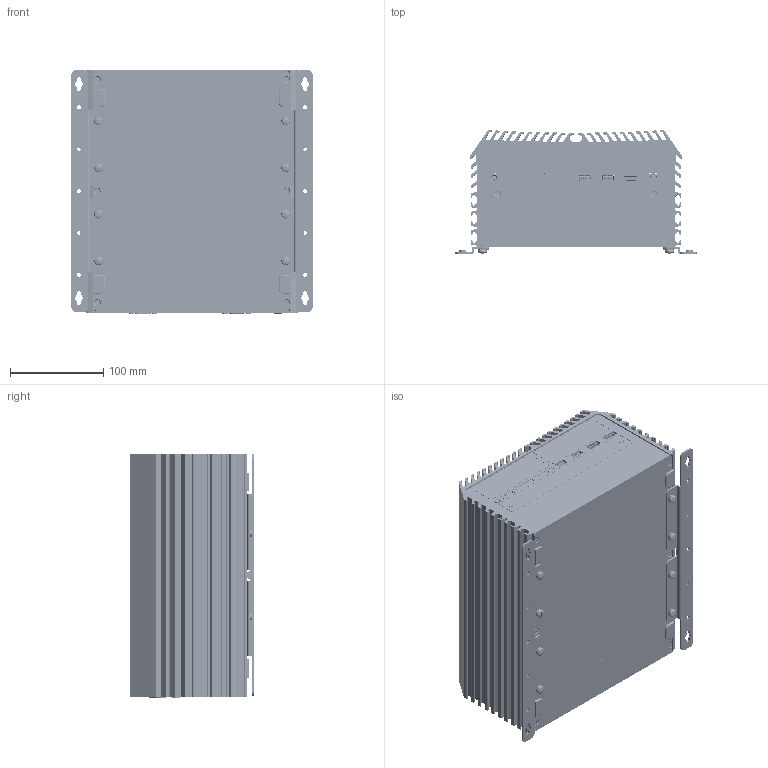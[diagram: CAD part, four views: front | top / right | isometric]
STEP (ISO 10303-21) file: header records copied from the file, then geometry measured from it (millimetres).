
FILE_DESCRIPTION (( 'STEP AP214' ), '1' );
FILE_NAME ('DS-1402-¼Ð·Ç-¥~Æ[-20230914.STEP', '2023-09-14T09:44:13', ( 'Owner' ), ( '' ), 'SwSTEP 2.0', 'SolidWorks 2014', '' );
FILE_SCHEMA (( 'AUTOMOTIVE_DESIGN' ));
Length unit declared in the file: millimetre
Products named in the file (37): Screw-丸頭-十字-耐落-SW-M5x6(M3-SCREAB00001); DS-1402-標準-外觀-20230914; DS-Wall Mount Bracket(M1-ZZZZ3611004); DS-1300-Front Bezel-symbol_panel(M0-ZZZZ5C30009)-20200923; Hole Plugs(M4-RUBR0100004)-M06V0; DS-1302-Front Bezel(M1-407130224100)-20200311; Screw-丸頭-十字-外齒-M5x8(M3-SCREAB00002); Screw-沙拉-120-星型-T10+E型扣-黑-M3x13(M3-1103132270+M3-402004050415); DS-1400-PCBA-ASM-20230419; Screw-耐落-沙拉-90-星型-T10-黑-M3x8(M3-N103082260); DS-1400-Main Board asm-20221108; RUM2JA-KFJC-BCB-0R; DS-1200-Bottom Cover asm-20200406; WHDM-19FLBSDR; Rubber Foot Shore(M4-RUFT0100001); USB-3.0-SMT-T.H(122-0921NX0504); DS-1200-Bottom Cover(M1-407120011200)-20180821; PWR_BTN_TC003; 23-D0341500030_DC_IN1_5EHDRM-03P_8; DS-1202-Top Cover asm-金金-20180402; 23-D0341500040_FAN2_ECH350R_3P_1LAYER; Top Cover(M1-407120206300)-DS-1202-金金-20181015; DS-1302-Riser Card Bracket asm-20200311; 23-D0242300200_DP1_DISPLAYPORT; L-Bracket(M0-LBKT2300017); D330H1SL72211DD0; DS-MEC KIT-Universal Bracket(M1-ZZZZ3613001); DS-1302-Riser Card Bracket(M1-107130253400)-20210204; 23-D0351500040_CN2_MINIDIN_USBX2; DS-1102-Riser Card Bracket-A(M1-107110253400); D20H1P1PA1X2A111N2 (3D); DS-1302-Rear Bezel(M1-407130234100)-20200419; AUTIO_2IN1; 銅柱-4-4OUNC-4.8_11.8H(M3-COSD6L00000)東莞?輝; 23-D0351500040_CN1_ECHB350R-04P; DS-1200-Front Bezel Matching Bezel(M1-407120084100); DS-1300-Front Open Bezel(M1-407130084101)
Assembly tree (66 placements, depth 4):
  DS-1402-標準-外觀-20230914
    DS-1400-PCBA-ASM-20230419
      DS-1400-Main Board asm-20221108
        23-D0351500040_CN1_ECHB350R-04P
        AUTIO_2IN1
        D20H1P1PA1X2A111N2 (3D)
        23-D0351500040_CN2_MINIDIN_USBX2
        D330H1SL72211DD0
        23-D0242300200_DP1_DISPLAYPORT  x2
        23-D0341500040_FAN2_ECH350R_3P_1LAYER
        23-D0341500030_DC_IN1_5EHDRM-03P_8
        PWR_BTN_TC003
        USB-3.0-SMT-T.H(122-0921NX0504)  x2
        WHDM-19FLBSDR
        RUM2JA-KFJC-BCB-0R  x2
    DS-1302-Front Bezel(M1-407130224100)-20200311
    DS-1300-Front Bezel-symbol_panel(M0-ZZZZ5C30009)-20200923
    DS-1300-Front Open Bezel(M1-407130084101)
    DS-1200-Front Bezel Matching Bezel(M1-407120084100)  x2
    DS-1302-Rear Bezel(M1-407130234100)-20200419
    DS-MEC KIT-Universal Bracket(M1-ZZZZ3613001)  x3
    DS-1202-Top Cover asm-金金-20180402
      Top Cover(M1-407120206300)-DS-1202-金金-20181015
    DS-1200-Bottom Cover asm-20200406
      DS-1200-Bottom Cover(M1-407120011200)-20180821
      Rubber Foot Shore(M4-RUFT0100001)  x4
    Screw-耐落-沙拉-90-星型-T10-黑-M3x8(M3-N103082260)  x6
    Screw-沙拉-120-星型-T10+E型扣-黑-M3x13(M3-1103132270+M3-402004050415)  x2
    Screw-丸頭-十字-外齒-M5x8(M3-SCREAB00002)
    Hole Plugs(M4-RUBR0100004)-M06V0  x2
    DS-Wall Mount Bracket(M1-ZZZZ3611004)  x2
    Screw-丸頭-十字-耐落-SW-M5x6(M3-SCREAB00001)  x8
    銅柱-4-4OUNC-4.8_11.8H(M3-COSD6L00000)東莞?輝  x6
    DS-1302-Riser Card Bracket asm-20200311
      DS-1302-Riser Card Bracket(M1-107130253400)-20210204
        DS-1102-Riser Card Bracket-A(M1-107110253400)
      L-Bracket(M0-LBKT2300017)  x2
Bounding box: 259 x 132.78 x 262.9 mm (x, y, z)
Volume: 1503372.7 mm3; surface area: 850198.9 mm2
Topology: 108 solids, 258 shells, 23508 faces, 66100 edges, 42933 vertices
Faces by surface type: plane 15440, cylinder 5763, bspline 2058, cone 153, torus 50, sphere 44
Entity records: 684661 total; most frequent: CARTESIAN_POINT 190010, ORIENTED_EDGE 89602, DIRECTION 70821, EDGE_CURVE 44914, LINE 30937, VECTOR 30937, VERTEX_POINT 29159, AXIS2_PLACEMENT_3D 19942
